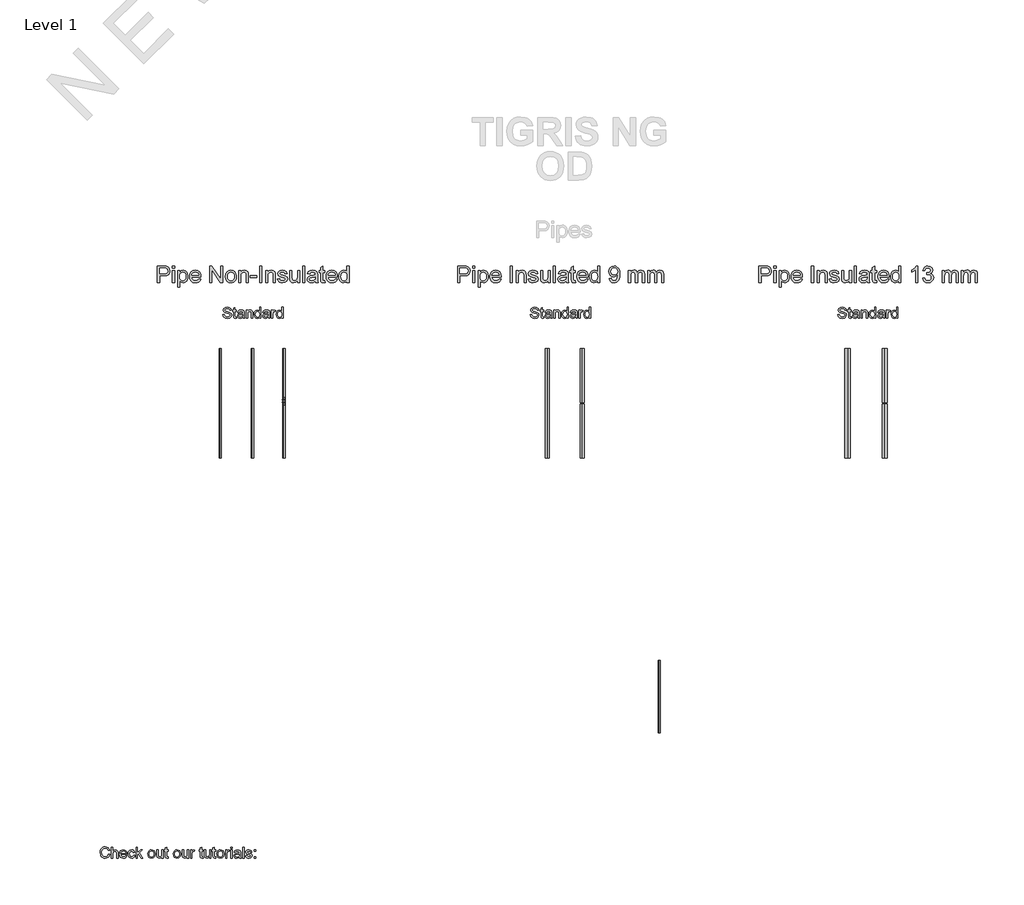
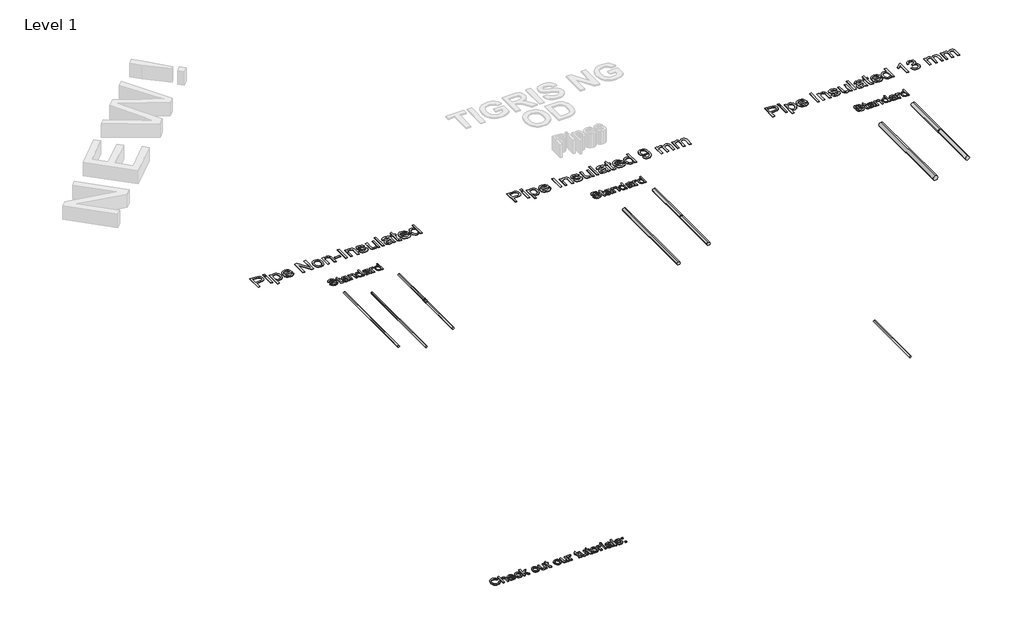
# One storey, part 1 of 2: 11 pipe segments, 4 pipe fittings, 1 proxy.
"""IFC4 building model written with IfcOpenShell, lengths in millimetres."""

from ifc_helpers import new_model, si_unit, point, frame, frame_2d, origin, origin_with_axes, place, context, project, spatial, polyline, circle_curve, trimmed, segment, composite_curve, outline, extrude, transform, mapped, element, save
from components import standard_570630be, z_starting_view_new_start_ca53cdfe, z_starting_view_new_start_2e19dfc8

model = new_model("IFC4")

# Units and contexts
model_context = context("Model", 3, world=origin())
ifc_project = project(units=[si_unit("LENGTHUNIT", "METRE", prefix="MILLI")], contexts=[model_context])

# Site, building, storey
site = spatial("IfcSite", under=ifc_project)
building = spatial("IfcBuilding", under=site)
storey = spatial("IfcBuildingStorey", under=building, Name="Level 1", Elevation=0.0)

# Proxy
placement = place(None, origin())
element("IfcBuildingElementProxy", 1, Name="Arial 100", ObjectType="Arial 100", at=placement, inside=storey, context=model_context, shape_type="SweptSolid", body=[
    extrude(outline(polyline([(19098.2094434, 8049.7925336), (19110.7664822, 8046.555172), (19104.9723408, 8031.9226657), (19095.8795241, 8021.232628), (19083.935622, 8014.6935256), (19069.5882242, 8012.5138247), (19055.0231629, 8014.1631623), (19043.4563398, 8019.1111752), (19034.5903837, 8027.186185), (19028.1279233, 8038.2165135), (19022.8672108, 8065.0718991), (19024.3540672, 8079.7197339), (19028.8146364, 8092.3687432), (19036.0159264, 8102.6173224), (19045.7249454, 8110.0638671), (19057.2396519, 8114.5980127), (19069.8580043, 8116.1093946), (19083.625988, 8114.1534886), (19095.0088701, 8108.2857708), (19103.6510313, 8098.8679917), (19109.1968523, 8086.261902), (19096.6398136, 8083.2697951), (19086.3391177, 8098.7085762), (19069.367495, 8103.5523558), (19049.7225964, 8098.1812787), (19038.6248229, 8083.7603045), (19035.4242496, 8065.0964246), (19039.2134341, 8043.4649633), (19051.0101834, 8029.644863), (19068.3374254, 8025.0708635), (19078.8189966, 8026.6282306), (19087.5531283, 8031.300332), (19094.1474131, 8039.0381166), (19098.2094434, 8049.7925336)])), origin_with_axes(), (0.0, 0.0, 1.0), 10.0),
    extrude(outline(polyline([(19126.4627806, 8014.0834546), (19126.4627806, 8114.5397647), (19139.0198194, 8114.5397647), (19139.0198194, 8077.6044124), (19148.8116119, 8086.4703685), (19160.8720099, 8089.4256872), (19174.9741531, 8086.2005884), (19183.5335408, 8077.2855814), (19186.1087148, 8060.7799425), (19186.1087148, 8014.0834546), (19173.551676, 8014.0834546), (19173.551676, 8059.4800928), (19169.554025, 8072.7238446), (19158.2232596, 8076.8686484), (19147.9348264, 8074.0727453), (19141.0676959, 8066.4943762), (19139.0198194, 8053.2751498), (19139.0198194, 8014.0834546), (19126.4627806, 8014.0834546)])), origin_with_axes(), (0.0, 0.0, 1.0), 10.0),
    extrude(outline(polyline([(19255.0252752, 8036.0582724), (19267.3370593, 8034.4886426), (19262.9010156, 8025.2118849), (19255.8223529, 8018.2773093), (19246.2604867, 8013.9546959), (19234.3748326, 8012.5138247), (19219.6411587, 8015.0000939), (19208.3042618, 8022.4589013), (19201.0753806, 8034.4058691), (19198.6657536, 8050.3566193), (19201.0999061, 8066.8438641), (19208.4023637, 8079.1740423), (19219.5859764, 8086.862776), (19233.663594, 8089.4256872), (19247.302819, 8086.8689073), (19258.2013231, 8079.1985677), (19265.3474309, 8066.892915), (19267.7294668, 8050.4301957), (19267.6558904, 8047.0456813), (19211.2227923, 8047.0456813), (19213.3963618, 8037.6462964), (19218.4455422, 8030.7362462), (19225.7326714, 8026.4872092), (19234.6200872, 8025.0708635), (19246.9318713, 8027.6950884), (19255.0252752, 8036.0582724)]), holes=[polyline([(19211.2227923, 8059.6027201), (19255.172428, 8059.6027201), (19250.1447074, 8070.9825365), (19242.8238557, 8075.3971204), (19233.6145431, 8076.8686484), (19218.1512366, 8072.1720216), (19213.2859972, 8066.6813828), (19211.2227923, 8059.6027201)])]), origin_with_axes(), (0.0, 0.0, 1.0), 10.0),
    extrude(outline(polyline([(19327.3754009, 8040.767162), (19339.9324397, 8039.1975321), (19336.4314294, 8028.0292479), (19329.852473, 8019.5894218), (19320.8148387, 8014.282724), (19309.9377944, 8012.5138247), (19296.5806123, 8014.9816998), (19286.1358293, 8022.3853249), (19279.3943917, 8034.3997378), (19277.1472459, 8050.6999758), (19280.9854814, 8071.558885), (19292.6841288, 8084.9620523), (19309.7661161, 8089.4256872), (19320.376446, 8087.8928455), (19328.8591917, 8083.2943206), (19334.944573, 8075.875367), (19338.3628099, 8065.8812395), (19325.8057711, 8064.3116097), (19319.9809728, 8073.717126), (19309.864218, 8076.8686484), (19301.7493543, 8075.3174127), (19295.3083537, 8070.6637054), (19291.1053019, 8062.6561407), (19289.7042846, 8051.0433324), (19291.0746451, 8039.2741742), (19295.1857264, 8031.2390183), (19301.510231, 8026.6129022), (19309.5208614, 8025.0708635), (19321.354399, 8028.9213617), (19327.3754009, 8040.767162)])), origin_with_axes(), (0.0, 0.0, 1.0), 10.0),
    extrude(outline(polyline([(19350.9198486, 8014.0834546), (19350.9198486, 8114.5397647), (19363.4768874, 8114.5397647), (19363.4768874, 8060.5592133), (19391.6321228, 8087.8560573), (19408.9961529, 8087.8560573), (19380.497561, 8060.2158568), (19410.5657828, 8014.0834546), (19395.8995539, 8014.0834546), (19371.4967149, 8051.4847908), (19363.4768874, 8043.7102179), (19363.4768874, 8014.0834546), (19350.9198486, 8014.0834546)])), origin_with_axes(), (0.0, 0.0, 1.0), 10.0),
    extrude(outline(polyline([(19457.6546782, 8050.969756), (19460.3708736, 8068.7568504), (19468.5194598, 8081.2587069), (19478.5871637, 8087.3839421), (19490.6414304, 8089.4256872), (19503.8330656, 8086.939418), (19514.3698191, 8079.4806106), (19521.2768036, 8067.637876), (19523.5791317, 8051.9998256), (19519.5079043, 8029.6571257), (19507.6498413, 8017.0142478), (19490.6414304, 8012.5138247), (19477.2903797, 8014.9908968), (19466.7658889, 8022.4221131), (19459.9324809, 8034.513168), (19457.6546782, 8050.969756)]), holes=[polyline([(19470.2117169, 8050.9942814), (19471.6648508, 8039.6297935), (19476.0242525, 8031.5333239), (19482.5848147, 8026.6864786), (19490.6414304, 8025.0708635), (19498.6612579, 8026.6956756), (19505.2095574, 8031.5701121), (19509.5689591, 8039.7738806), (19511.0220929, 8051.3866889), (19509.559762, 8062.4200831), (19505.1727692, 8070.406188), (19498.6152726, 8075.2530333), (19490.6414304, 8076.8686484), (19482.5848147, 8075.2591647), (19476.0242525, 8070.4307135), (19471.6648508, 8062.352638), (19470.2117169, 8050.9942814)])]), origin_with_axes(), (0.0, 0.0, 1.0), 10.0),
    extrude(outline(polyline([(19584.7946957, 8014.0834546), (19584.7946957, 8026.7631207), (19574.9599837, 8016.0761487), (19562.1331648, 8012.5138247), (19550.3241528, 8015.0154223), (19542.1816979, 8021.2939417), (19538.4415643, 8030.5400425), (19537.7058003, 8042.2141645), (19537.7058003, 8087.8560573), (19550.2628391, 8087.8560573), (19550.2628391, 8048.1248019), (19551.0231285, 8035.3225084), (19555.9895355, 8027.805453), (19565.3460009, 8025.0708635), (19575.8306378, 8027.8667667), (19582.759082, 8035.481924), (19584.7946957, 8049.4737025), (19584.7946957, 8087.8560573), (19597.3517345, 8087.8560573), (19597.3517345, 8014.0834546), (19584.7946957, 8014.0834546)])), origin_with_axes(), (0.0, 0.0, 1.0), 10.0),
    extrude(outline(polyline([(19641.3013702, 8024.5558287), (19642.871, 8013.7155726), (19633.4777464, 8012.5138247), (19622.9563213, 8014.5984894), (19617.7078715, 8020.0676684), (19616.1872926, 8034.3169643), (19616.1872926, 8075.2990186), (19606.7695135, 8075.2990186), (19606.7695135, 8087.8560573), (19616.1872926, 8087.8560573), (19616.1872926, 8105.7841732), (19628.7443314, 8113.1663386), (19628.7443314, 8087.8560573), (19641.3013702, 8087.8560573), (19641.3013702, 8075.2990186), (19628.7443314, 8075.2990186), (19628.7443314, 8034.6848463), (19629.406519, 8028.2101232), (19631.5524973, 8025.9169921), (19635.8321912, 8025.0708635), (19641.3013702, 8024.5558287)])), origin_with_axes(), (0.0, 0.0, 1.0), 10.0),
    extrude(outline(polyline([(19689.9598954, 8050.969756), (19692.6760908, 8068.7568504), (19700.824677, 8081.2587069), (19710.8923809, 8087.3839421), (19722.9466476, 8089.4256872), (19736.1382828, 8086.939418), (19746.6750363, 8079.4806106), (19753.5820208, 8067.637876), (19755.8843489, 8051.9998256), (19751.8131215, 8029.6571257), (19739.9550585, 8017.0142478), (19722.9466476, 8012.5138247), (19709.5955969, 8014.9908968), (19699.0711061, 8022.4221131), (19692.2376981, 8034.513168), (19689.9598954, 8050.969756)]), holes=[polyline([(19702.5169342, 8050.9942814), (19703.970068, 8039.6297935), (19708.3294697, 8031.5333239), (19714.8900319, 8026.6864786), (19722.9466476, 8025.0708635), (19730.9664751, 8026.6956756), (19737.5147746, 8031.5701121), (19741.8741763, 8039.7738806), (19743.3273102, 8051.3866889), (19741.8649792, 8062.4200831), (19737.4779864, 8070.406188), (19730.9204899, 8075.2530333), (19722.9466476, 8076.8686484), (19714.8900319, 8075.2591647), (19708.3294697, 8070.4307135), (19703.970068, 8062.352638), (19702.5169342, 8050.9942814)])]), origin_with_axes(), (0.0, 0.0, 1.0), 10.0),
    extrude(outline(polyline([(19817.0999129, 8014.0834546), (19817.0999129, 8026.7631207), (19807.2652009, 8016.0761487), (19794.438382, 8012.5138247), (19782.62937, 8015.0154223), (19774.4869151, 8021.2939417), (19770.7467815, 8030.5400425), (19770.0110175, 8042.2141645), (19770.0110175, 8087.8560573), (19782.5680563, 8087.8560573), (19782.5680563, 8048.1248019), (19783.3283458, 8035.3225084), (19788.2947527, 8027.805453), (19797.6512181, 8025.0708635), (19808.135855, 8027.8667667), (19815.0642992, 8035.481924), (19817.0999129, 8049.4737025), (19817.0999129, 8087.8560573), (19829.6569517, 8087.8560573), (19829.6569517, 8014.0834546), (19817.0999129, 8014.0834546)])), origin_with_axes(), (0.0, 0.0, 1.0), 10.0),
    extrude(outline(polyline([(19846.92288, 8014.0834546), (19846.92288, 8087.8560573), (19857.9102889, 8087.8560573), (19857.9102889, 8076.9422248), (19865.7093872, 8086.997666), (19873.5575364, 8089.4256872), (19886.1636261, 8085.5506635), (19881.9697714, 8074.2934745), (19873.1406035, 8076.8686484), (19866.040481, 8074.3915763), (19861.5155325, 8067.5244457), (19859.4799188, 8052.8582169), (19859.4799188, 8014.0834546), (19846.92288, 8014.0834546)])), origin_with_axes(), (0.0, 0.0, 1.0), 10.0),
    extrude(outline(polyline([(19959.9362289, 8024.5558287), (19961.5058588, 8013.7155726), (19952.1126052, 8012.5138247), (19941.5911801, 8014.5984894), (19936.3427303, 8020.0676684), (19934.8221514, 8034.3169643), (19934.8221514, 8075.2990186), (19925.4043723, 8075.2990186), (19925.4043723, 8087.8560573), (19934.8221514, 8087.8560573), (19934.8221514, 8105.7841732), (19947.3791901, 8113.1663386), (19947.3791901, 8087.8560573), (19959.9362289, 8087.8560573), (19959.9362289, 8075.2990186), (19947.3791901, 8075.2990186), (19947.3791901, 8034.6848463), (19948.0413777, 8028.2101232), (19950.187356, 8025.9169921), (19954.4670499, 8025.0708635), (19959.9362289, 8024.5558287)])), origin_with_axes(), (0.0, 0.0, 1.0), 10.0),
    extrude(outline(polyline([(20019.5821631, 8014.0834546), (20019.5821631, 8026.7631207), (20009.7474511, 8016.0761487), (19996.9206322, 8012.5138247), (19985.1116201, 8015.0154223), (19976.9691653, 8021.2939417), (19973.2290317, 8030.5400425), (19972.4932677, 8042.2141645), (19972.4932677, 8087.8560573), (19985.0503065, 8087.8560573), (19985.0503065, 8048.1248019), (19985.8105959, 8035.3225084), (19990.7770028, 8027.805453), (20000.1334683, 8025.0708635), (20010.6181051, 8027.8667667), (20017.5465494, 8035.481924), (20019.5821631, 8049.4737025), (20019.5821631, 8087.8560573), (20032.1392018, 8087.8560573), (20032.1392018, 8014.0834546), (20019.5821631, 8014.0834546)])), origin_with_axes(), (0.0, 0.0, 1.0), 10.0),
    extrude(outline(polyline([(20076.0888375, 8024.5558287), (20077.6584674, 8013.7155726), (20068.2652138, 8012.5138247), (20057.7437887, 8014.5984894), (20052.4953389, 8020.0676684), (20050.97476, 8034.3169643), (20050.97476, 8075.2990186), (20041.5569809, 8075.2990186), (20041.5569809, 8087.8560573), (20050.97476, 8087.8560573), (20050.97476, 8105.7841732), (20063.5317988, 8113.1663386), (20063.5317988, 8087.8560573), (20076.0888375, 8087.8560573), (20076.0888375, 8075.2990186), (20063.5317988, 8075.2990186), (20063.5317988, 8034.6848463), (20064.1939863, 8028.2101232), (20066.3399647, 8025.9169921), (20070.6196585, 8025.0708635), (20076.0888375, 8024.5558287)])), origin_with_axes(), (0.0, 0.0, 1.0), 10.0),
    extrude(outline(polyline([(20085.5066166, 8050.969756), (20088.222812, 8068.7568504), (20096.3713982, 8081.2587069), (20106.4391021, 8087.3839421), (20118.4933688, 8089.4256872), (20131.685004, 8086.939418), (20142.2217575, 8079.4806106), (20149.128742, 8067.637876), (20151.4310701, 8051.9998256), (20147.3598427, 8029.6571257), (20135.5017797, 8017.0142478), (20118.4933688, 8012.5138247), (20105.1423181, 8014.9908968), (20094.6178274, 8022.4221131), (20087.7844193, 8034.513168), (20085.5066166, 8050.969756)]), holes=[polyline([(20098.0636554, 8050.9942814), (20099.5167893, 8039.6297935), (20103.8761909, 8031.5333239), (20110.4367531, 8026.6864786), (20118.4933688, 8025.0708635), (20126.5131963, 8026.6956756), (20133.0614958, 8031.5701121), (20137.4208975, 8039.7738806), (20138.8740314, 8051.3866889), (20137.4117004, 8062.4200831), (20133.0247076, 8070.406188), (20126.4672111, 8075.2530333), (20118.4933688, 8076.8686484), (20110.4367531, 8075.2591647), (20103.8761909, 8070.4307135), (20099.5167893, 8062.352638), (20098.0636554, 8050.9942814)])]), origin_with_axes(), (0.0, 0.0, 1.0), 10.0),
    extrude(outline(polyline([(20165.5577388, 8014.0834546), (20165.5577388, 8087.8560573), (20176.5451477, 8087.8560573), (20176.5451477, 8076.9422248), (20184.344246, 8086.997666), (20192.1923952, 8089.4256872), (20204.7984849, 8085.5506635), (20200.6046302, 8074.2934745), (20191.7754623, 8076.8686484), (20184.6753398, 8074.3915763), (20180.1503912, 8067.5244457), (20178.1147775, 8052.8582169), (20178.1147775, 8014.0834546), (20165.5577388, 8014.0834546)])), origin_with_axes(), (0.0, 0.0, 1.0), 10.0),
    extrude(outline(polyline([(20212.6466341, 8101.982726), (20212.6466341, 8114.5397647), (20225.2036729, 8114.5397647), (20225.2036729, 8101.982726), (20212.6466341, 8101.982726)])), origin_with_axes(), (0.0, 0.0, 1.0), 10.0),
    extrude(outline(polyline([(20212.6466341, 8014.0834546), (20212.6466341, 8087.8560573), (20225.2036729, 8087.8560573), (20225.2036729, 8014.0834546), (20212.6466341, 8014.0834546)])), origin_with_axes(), (0.0, 0.0, 1.0), 10.0),
    extrude(outline(polyline([(20291.1281264, 8023.5012337), (20278.9512324, 8014.9908968), (20265.4990141, 8012.5138247), (20255.0051802, 8014.0037468), (20247.2643299, 8018.4735131), (20242.491061, 8025.2609359), (20240.8999714, 8033.7038277), (20243.3034671, 8043.6366415), (20249.6187747, 8050.8471286), (20258.4111543, 8054.967407), (20269.2759359, 8056.8558679), (20291.05455, 8061.17235), (20291.1281264, 8063.9682531), (20287.6700357, 8073.2388794), (20273.7886217, 8076.8686484), (20261.0844302, 8074.45289), (20255.02664, 8065.8812395), (20242.4696012, 8067.4508693), (20247.901992, 8079.7136025), (20258.84035, 8086.8995642), (20275.4073025, 8089.4256872), (20290.6253544, 8087.1938698), (20299.2215303, 8081.5898007), (20303.0720286, 8073.0672011), (20303.6851652, 8062.0797922), (20303.6851652, 8046.4570702), (20304.3228273, 8024.6416678), (20306.8244249, 8014.0834546), (20294.2673861, 8014.0834546), (20291.1281264, 8023.5012337)]), holes=[polyline([(20291.1281264, 8048.6153112), (20270.8700912, 8044.764813), (20260.0666233, 8042.7291993), (20255.1737928, 8039.4182613), (20253.4570101, 8034.5867444), (20257.1971438, 8027.7931903), (20268.1722899, 8025.0708635), (20280.8764815, 8028.0752331), (20289.0679873, 8035.3470339), (20291.05455, 8045.0591186), (20291.1281264, 8048.6153112)])]), origin_with_axes(), (0.0, 0.0, 1.0), 10.0),
    extrude(outline(polyline([(20320.9510935, 8014.0834546), (20320.9510935, 8114.5397647), (20333.5081323, 8114.5397647), (20333.5081323, 8014.0834546), (20320.9510935, 8014.0834546)])), origin_with_axes(), (0.0, 0.0, 1.0), 10.0),
    extrude(outline(polyline([(20347.6348009, 8036.0582724), (20360.1918397, 8037.6279023), (20366.0043752, 8028.3082251), (20379.3217034, 8025.0708635), (20392.1239968, 8028.0384449), (20396.2933261, 8035.0036774), (20392.0994714, 8040.6445346), (20379.1745506, 8044.2252527), (20360.2654161, 8050.368882), (20352.0125966, 8057.5425809), (20349.2044307, 8067.6715985), (20351.4607736, 8077.028064), (20357.6166657, 8084.1772374), (20365.599705, 8087.8928455), (20376.4031729, 8089.4256872), (20391.6825385, 8086.9608778), (20401.3946231, 8080.289951), (20405.7111052, 8069.0204992), (20393.1540664, 8067.4508693), (20388.4329142, 8074.3793136), (20377.3841916, 8076.8686484), (20365.3667131, 8074.4896782), (20361.7614695, 8068.9469228), (20363.257523, 8065.2926283), (20367.941887, 8062.5212506), (20378.7576177, 8059.8479748), (20397.1885056, 8053.9373374), (20405.7478934, 8047.2418851), (20408.8503649, 8036.3280526), (20405.2083331, 8024.310574), (20394.6991708, 8015.5917708), (20379.1500252, 8012.5138247), (20366.4887532, 8013.9976154), (20357.2487837, 8018.4489876), (20351.0806289, 8025.8188902), (20347.6348009, 8036.0582724)])), origin_with_axes(), (0.0, 0.0, 1.0), 10.0),
    extrude(outline(polyline([(20426.1162932, 8014.0834546), (20426.1162932, 8026.6404934), (20438.673332, 8026.6404934), (20438.673332, 8014.0834546), (20426.1162932, 8014.0834546)])), origin_with_axes(), (0.0, 0.0, 1.0), 10.0),
    extrude(outline(polyline([(20426.1162932, 8075.2990186), (20426.1162932, 8087.8560573), (20438.673332, 8087.8560573), (20438.673332, 8075.2990186), (20426.1162932, 8075.2990186)])), origin_with_axes(), (0.0, 0.0, 1.0), 10.0),
])

# Pipe fittings
standard_shape = standard_570630be(model_context)
element("IfcPipeFitting", 2, ObjectType="Wavin_PipeFitting_TigrisCouplerMK : Standard", at=placement, inside=storey, context=model_context, shape_type="MappedRepresentation", body=[
    mapped(standard_shape, transform((20696.7315561, 12177.4702489, 107.5), x_axis=(0.0, 1.0, 0.0), y_axis=(-1.0, 0.0, 0.0), z_axis=(0.0, 0.0, 1.0))),
])
element("IfcPipeFitting", 3, ObjectType="Wavin_PipeFitting_TigrisCouplerMK : Standard", at=placement, inside=storey, context=model_context, shape_type="MappedRepresentation", body=[
    mapped(standard_shape, transform((23414.3430577, 12157.7270827, 107.5), x_axis=(0.0, 1.0, 0.0), y_axis=(-1.0, 0.0, 0.0), z_axis=(0.0, 0.0, 1.0))),
])
element("IfcPipeFitting", 4, ObjectType="Wavin_PipeFitting_TigrisCouplerMK : Standard", at=placement, inside=storey, context=model_context, shape_type="MappedRepresentation", body=[
    mapped(standard_shape, transform((26170.0686975, 12158.0611017, 107.5), x_axis=(0.0, 1.0, 0.0), y_axis=(-1.0, 0.0, 0.0), z_axis=(0.0, 0.0, 1.0))),
])
z_starting_view_new_start_shape = z_starting_view_new_start_ca53cdfe(model_context)
z_starting_view_new_start_2_shape = z_starting_view_new_start_2e19dfc8(model_context)
element("IfcPipeFitting", 5, ObjectType="Z_Starting_View_New : Start", at=placement, inside=storey, context=model_context, shape_type="MappedRepresentation", body=[
    mapped(z_starting_view_new_start_shape, transform((-2217.5433057, 5811.952118, 0.0), x_axis=(1.0, 0.0, 0.0), y_axis=(0.0, 1.0, 0.0), z_axis=(0.0, 0.0, 1.0))),
    mapped(z_starting_view_new_start_2_shape, transform((-2217.5433057, 5811.952118, 0.0), x_axis=(1.0, 0.0, 0.0), y_axis=(0.0, 1.0, 0.0), z_axis=(0.0, 0.0, 1.0))),
])

# Pipe segments
element("IfcPipeSegment", 6, ObjectType="Wavin_Pipe_TigrisSinglePipeOdStandard5M", at=placement, inside=storey, context=model_context, shape_type="SweptSolid", body=[
    extrude(outline(composite_curve([segment(trimmed(circle_curve(frame_2d((107.5, 20116.7315561)), 10.0), [point((107.5, 20126.7315561))], [point((117.5, 20116.7315561))], False, "CARTESIAN"), True, "CONTINUOUS"), segment(trimmed(circle_curve(frame_2d((107.5, 20116.7315561)), 10.0), [point((117.5, 20116.7315561))], [point((107.5, 20106.7315561))], False, "CARTESIAN"), True, "CONTINUOUS"), segment(trimmed(circle_curve(frame_2d((107.5, 20116.7315561)), 10.0), [point((107.5, 20106.7315561))], [point((97.5, 20116.7315561))], False, "CARTESIAN"), True, "CONTINUOUS"), segment(trimmed(circle_curve(frame_2d((107.5, 20116.7315561)), 10.0), [point((97.5, 20116.7315561))], [point((107.5, 20126.7315561))], False, "CARTESIAN"), True, "CONTINUOUS")], self_intersect=False)), frame((0.0, 11657.4702489, 0.0), z_axis=(0.0, 1.0, 0.0), x_axis=(0.0, 0.0, 1.0)), (0.0, 0.0, 1.0), 1000.0),
])
element("IfcPipeSegment", 7, ObjectType="Wavin_Pipe_TigrisPipeInCoilOdStandard", at=placement, inside=storey, context=model_context, shape_type="SweptSolid", body=[
    extrude(outline(composite_curve([segment(trimmed(circle_curve(frame_2d((107.5, 20696.7315561)), 10.0), [point((107.5, 20706.7315561))], [point((117.5, 20696.7315561))], False, "CARTESIAN"), True, "CONTINUOUS"), segment(trimmed(circle_curve(frame_2d((107.5, 20696.7315561)), 10.0), [point((117.5, 20696.7315561))], [point((107.5, 20686.7315561))], False, "CARTESIAN"), True, "CONTINUOUS"), segment(trimmed(circle_curve(frame_2d((107.5, 20696.7315561)), 10.0), [point((107.5, 20686.7315561))], [point((97.5, 20696.7315561))], False, "CARTESIAN"), True, "CONTINUOUS"), segment(trimmed(circle_curve(frame_2d((107.5, 20696.7315561)), 10.0), [point((97.5, 20696.7315561))], [point((107.5, 20706.7315561))], False, "CARTESIAN"), True, "CONTINUOUS")], self_intersect=False)), frame((0.0, 12185.9702489, 0.0), z_axis=(0.0, 1.0, 0.0), x_axis=(0.0, 0.0, 1.0)), (0.0, 0.0, 1.0), 471.5),
])
element("IfcPipeSegment", 8, ObjectType="Wavin_Pipe_TigrisPipeInCoilOdStandard", at=placement, inside=storey, context=model_context, shape_type="SweptSolid", body=[
    extrude(outline(composite_curve([segment(trimmed(circle_curve(frame_2d((107.5, 20696.7315561)), 10.0), [point((107.5, 20706.7315561))], [point((117.5, 20696.7315561))], False, "CARTESIAN"), True, "CONTINUOUS"), segment(trimmed(circle_curve(frame_2d((107.5, 20696.7315561)), 10.0), [point((117.5, 20696.7315561))], [point((107.5, 20686.7315561))], False, "CARTESIAN"), True, "CONTINUOUS"), segment(trimmed(circle_curve(frame_2d((107.5, 20696.7315561)), 10.0), [point((107.5, 20686.7315561))], [point((97.5, 20696.7315561))], False, "CARTESIAN"), True, "CONTINUOUS"), segment(trimmed(circle_curve(frame_2d((107.5, 20696.7315561)), 10.0), [point((97.5, 20696.7315561))], [point((107.5, 20706.7315561))], False, "CARTESIAN"), True, "CONTINUOUS")], self_intersect=False)), frame((0.0, 11657.4702489, 0.0), z_axis=(0.0, 1.0, 0.0), x_axis=(0.0, 0.0, 1.0)), (0.0, 0.0, 1.0), 511.5),
])
element("IfcPipeSegment", 9, ObjectType="Wavin_Pipe_TigrisPipeInsulated9MmRedOdStandard", at=placement, inside=storey, context=model_context, shape_type="SweptSolid", body=[
    extrude(outline(composite_curve([segment(trimmed(circle_curve(frame_2d((107.5, 23414.3430577)), 19.0), [point((107.5, 23433.3430577))], [point((126.5, 23414.3430577))], False, "CARTESIAN"), True, "CONTINUOUS"), segment(trimmed(circle_curve(frame_2d((107.5, 23414.3430577)), 19.0), [point((126.5, 23414.3430577))], [point((107.5, 23395.3430577))], False, "CARTESIAN"), True, "CONTINUOUS"), segment(trimmed(circle_curve(frame_2d((107.5, 23414.3430577)), 19.0), [point((107.5, 23395.3430577))], [point((88.5, 23414.3430577))], False, "CARTESIAN"), True, "CONTINUOUS"), segment(trimmed(circle_curve(frame_2d((107.5, 23414.3430577)), 19.0), [point((88.5, 23414.3430577))], [point((107.5, 23433.3430577))], False, "CARTESIAN"), True, "CONTINUOUS")], self_intersect=False)), frame((0.0, 12166.2270827, 0.0), z_axis=(0.0, 1.0, 0.0), x_axis=(0.0, 0.0, 1.0)), (0.0, 0.0, 1.0), 491.5),
])
element("IfcPipeSegment", 10, ObjectType="Wavin_Pipe_TigrisPipeInsulated13MmRedOdStandard", at=placement, inside=storey, context=model_context, shape_type="SweptSolid", body=[
    extrude(outline(composite_curve([segment(trimmed(circle_curve(frame_2d((107.5, 26170.0686975)), 23.0), [point((107.5, 26193.0686975))], [point((130.5, 26170.0686975))], False, "CARTESIAN"), True, "CONTINUOUS"), segment(trimmed(circle_curve(frame_2d((107.5, 26170.0686975)), 23.0), [point((130.5, 26170.0686975))], [point((107.5, 26147.0686975))], False, "CARTESIAN"), True, "CONTINUOUS"), segment(trimmed(circle_curve(frame_2d((107.5, 26170.0686975)), 23.0), [point((107.5, 26147.0686975))], [point((84.5, 26170.0686975))], False, "CARTESIAN"), True, "CONTINUOUS"), segment(trimmed(circle_curve(frame_2d((107.5, 26170.0686975)), 23.0), [point((84.5, 26170.0686975))], [point((107.5, 26193.0686975))], False, "CARTESIAN"), True, "CONTINUOUS")], self_intersect=False)), frame((0.0, 12166.5611017, 0.0), z_axis=(0.0, 1.0, 0.0), x_axis=(0.0, 0.0, 1.0)), (0.0, 0.0, 1.0), 491.5),
])
element("IfcPipeSegment", 11, ObjectType="Wavin_Pipe_TigrisPipeInsulated9MmRedOdStandard", at=placement, inside=storey, context=model_context, shape_type="SweptSolid", body=[
    extrude(outline(composite_curve([segment(trimmed(circle_curve(frame_2d((107.5, 23414.3430577)), 19.0), [point((107.5, 23433.3430577))], [point((126.5, 23414.3430577))], False, "CARTESIAN"), True, "CONTINUOUS"), segment(trimmed(circle_curve(frame_2d((107.5, 23414.3430577)), 19.0), [point((126.5, 23414.3430577))], [point((107.5, 23395.3430577))], False, "CARTESIAN"), True, "CONTINUOUS"), segment(trimmed(circle_curve(frame_2d((107.5, 23414.3430577)), 19.0), [point((107.5, 23395.3430577))], [point((88.5, 23414.3430577))], False, "CARTESIAN"), True, "CONTINUOUS"), segment(trimmed(circle_curve(frame_2d((107.5, 23414.3430577)), 19.0), [point((88.5, 23414.3430577))], [point((107.5, 23433.3430577))], False, "CARTESIAN"), True, "CONTINUOUS")], self_intersect=False)), frame((0.0, 11657.7270827, 0.0), z_axis=(0.0, 1.0, 0.0), x_axis=(0.0, 0.0, 1.0)), (0.0, 0.0, 1.0), 491.5),
])
element("IfcPipeSegment", 12, ObjectType="Wavin_Pipe_TigrisPipeInsulated13MmRedOdStandard", at=placement, inside=storey, context=model_context, shape_type="SweptSolid", body=[
    extrude(outline(composite_curve([segment(trimmed(circle_curve(frame_2d((107.5, 26170.0686975)), 23.0), [point((107.5, 26193.0686975))], [point((130.5, 26170.0686975))], False, "CARTESIAN"), True, "CONTINUOUS"), segment(trimmed(circle_curve(frame_2d((107.5, 26170.0686975)), 23.0), [point((130.5, 26170.0686975))], [point((107.5, 26147.0686975))], False, "CARTESIAN"), True, "CONTINUOUS"), segment(trimmed(circle_curve(frame_2d((107.5, 26170.0686975)), 23.0), [point((107.5, 26147.0686975))], [point((84.5, 26170.0686975))], False, "CARTESIAN"), True, "CONTINUOUS"), segment(trimmed(circle_curve(frame_2d((107.5, 26170.0686975)), 23.0), [point((84.5, 26170.0686975))], [point((107.5, 26193.0686975))], False, "CARTESIAN"), True, "CONTINUOUS")], self_intersect=False)), frame((0.0, 11658.0611017, 0.0), z_axis=(0.0, 1.0, 0.0), x_axis=(0.0, 0.0, 1.0)), (0.0, 0.0, 1.0), 491.5),
])
element("IfcPipeSegment", 13, ObjectType="Wavin_Pipe_TigrisSinglePipeOdStandard3M", at=placement, inside=storey, context=model_context, shape_type="SweptSolid", body=[
    extrude(outline(composite_curve([segment(trimmed(circle_curve(frame_2d((0.0, 20410.2938244)), 10.0), [point((0.0, 20400.2938244))], [point((-10.0, 20410.2938244))], False, "CARTESIAN"), True, "CONTINUOUS"), segment(trimmed(circle_curve(frame_2d((0.0, 20410.2938244)), 10.0), [point((-10.0, 20410.2938244))], [point((0.0, 20420.2938244))], False, "CARTESIAN"), True, "CONTINUOUS"), segment(trimmed(circle_curve(frame_2d((0.0, 20410.2938244)), 10.0), [point((0.0, 20420.2938244))], [point((10.0, 20410.2938244))], False, "CARTESIAN"), True, "CONTINUOUS"), segment(trimmed(circle_curve(frame_2d((0.0, 20410.2938244)), 10.0), [point((10.0, 20410.2938244))], [point((0.0, 20400.2938244))], False, "CARTESIAN"), True, "CONTINUOUS")], self_intersect=False)), frame((0.0, 11657.4702489, 0.0), z_axis=(0.0, 1.0, 0.0), x_axis=(0.0, 0.0, 1.0)), (0.0, 0.0, 1.0), 1000.0),
])
element("IfcPipeSegment", 14, ObjectType="Wavin_Pipe_TigrisPipeInsulated9MmBlueOdStandard", at=placement, inside=storey, context=model_context, shape_type="SweptSolid", body=[
    extrude(outline(composite_curve([segment(trimmed(circle_curve(frame_2d((0.0, 23094.5856637)), 19.0), [point((0.0, 23075.5856637))], [point((-19.0, 23094.5856637))], False, "CARTESIAN"), True, "CONTINUOUS"), segment(trimmed(circle_curve(frame_2d((0.0, 23094.5856637)), 19.0), [point((-19.0, 23094.5856637))], [point((0.0, 23113.5856637))], False, "CARTESIAN"), True, "CONTINUOUS"), segment(trimmed(circle_curve(frame_2d((0.0, 23094.5856637)), 19.0), [point((0.0, 23113.5856637))], [point((19.0, 23094.5856637))], False, "CARTESIAN"), True, "CONTINUOUS"), segment(trimmed(circle_curve(frame_2d((0.0, 23094.5856637)), 19.0), [point((19.0, 23094.5856637))], [point((0.0, 23075.5856637))], False, "CARTESIAN"), True, "CONTINUOUS")], self_intersect=False)), frame((0.0, 11658.0611017, 0.0), z_axis=(0.0, 1.0, 0.0), x_axis=(0.0, 0.0, 1.0)), (0.0, 0.0, 1.0), 999.6659811),
])
element("IfcPipeSegment", 15, ObjectType="Wavin_Pipe_TigrisPipeInsulated13MmBlueOdStandard", at=placement, inside=storey, context=model_context, shape_type="SweptSolid", body=[
    extrude(outline(composite_curve([segment(trimmed(circle_curve(frame_2d((0.0, 25829.182263)), 25.5), [point((0.0, 25803.682263))], [point((-25.5, 25829.182263))], False, "CARTESIAN"), True, "CONTINUOUS"), segment(trimmed(circle_curve(frame_2d((0.0, 25829.182263)), 25.5), [point((-25.5, 25829.182263))], [point((0.0, 25854.682263))], False, "CARTESIAN"), True, "CONTINUOUS"), segment(trimmed(circle_curve(frame_2d((0.0, 25829.182263)), 25.5), [point((0.0, 25854.682263))], [point((25.5, 25829.182263))], False, "CARTESIAN"), True, "CONTINUOUS"), segment(trimmed(circle_curve(frame_2d((0.0, 25829.182263)), 25.5), [point((25.5, 25829.182263))], [point((0.0, 25803.682263))], False, "CARTESIAN"), True, "CONTINUOUS")], self_intersect=False)), frame((0.0, 11657.7270827, 0.0), z_axis=(0.0, 1.0, 0.0), x_axis=(0.0, 0.0, 1.0)), (0.0, 0.0, 1.0), 1000.0),
])
element("IfcPipeSegment", 16, ObjectType="Universal Transition Pipe", at=placement, inside=storey, context=model_context, shape_type="SweptSolid", body=[
    extrude(outline(composite_curve([segment(trimmed(circle_curve(frame_2d((107.5, 24116.5886914)), 9.525), [point((107.5, 24126.1136914))], [point((117.025, 24116.5886914))], False, "CARTESIAN"), True, "CONTINUOUS"), segment(trimmed(circle_curve(frame_2d((107.5, 24116.5886914)), 9.525), [point((117.025, 24116.5886914))], [point((107.5, 24107.0636914))], False, "CARTESIAN"), True, "CONTINUOUS"), segment(trimmed(circle_curve(frame_2d((107.5, 24116.5886914)), 9.525), [point((107.5, 24107.0636914))], [point((97.975, 24116.5886914))], False, "CARTESIAN"), True, "CONTINUOUS"), segment(trimmed(circle_curve(frame_2d((107.5, 24116.5886914)), 9.525), [point((97.975, 24116.5886914))], [point((107.5, 24126.1136914))], False, "CARTESIAN"), True, "CONTINUOUS")], self_intersect=False)), frame((0.0, 9155.3054265, 0.0), z_axis=(0.0, 1.0, 0.0), x_axis=(0.0, 0.0, 1.0)), (0.0, 0.0, 1.0), 660.0),
])

save(model, "model.ifc")
